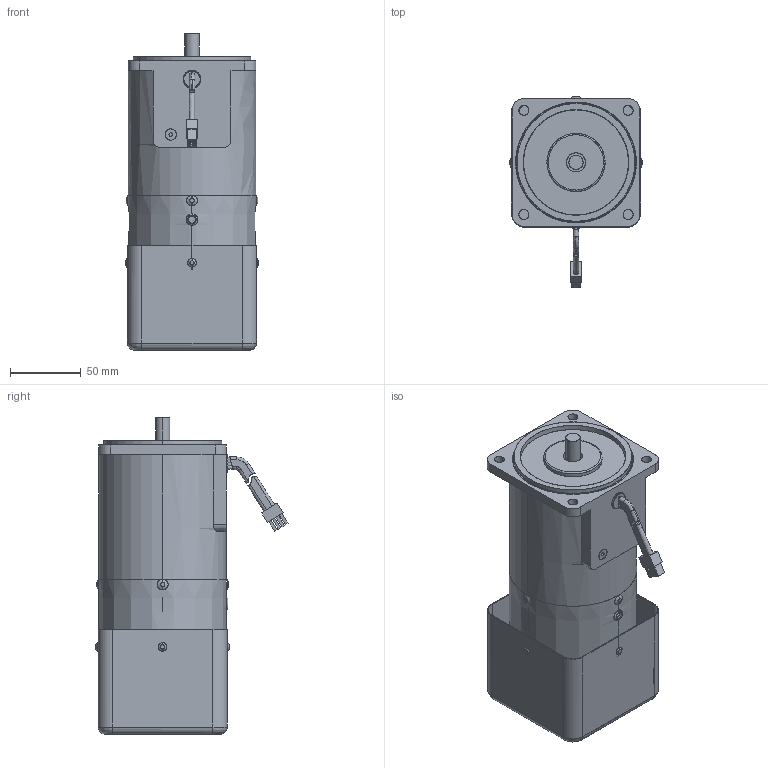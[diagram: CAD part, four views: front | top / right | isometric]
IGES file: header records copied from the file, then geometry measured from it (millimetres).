
Start section: SolidWorks IGES file using analytic representation for surfaces
Global section: file name: \\楷备家烹钦辑滚\data (D)\档搁 枚\权其捞瘤 档搁\9. SPEED BRAKE\90\60W\(9-57) 9SBDG∴-60F2P.IGS; native system: SolidWorks 2007; preprocessor: SolidWorks 2007; author: user; date: 150723.090127; units: millimetre
Bounding box: 94 x 135.4 x 223 mm (x, y, z)
Surface area: 210524.3 mm2 (no closed solid volume)
Topology: 0 solids, 0 shells, 462 faces, 9192 edges, 9192 vertices
Faces by surface type: revolution 286, bspline 176
